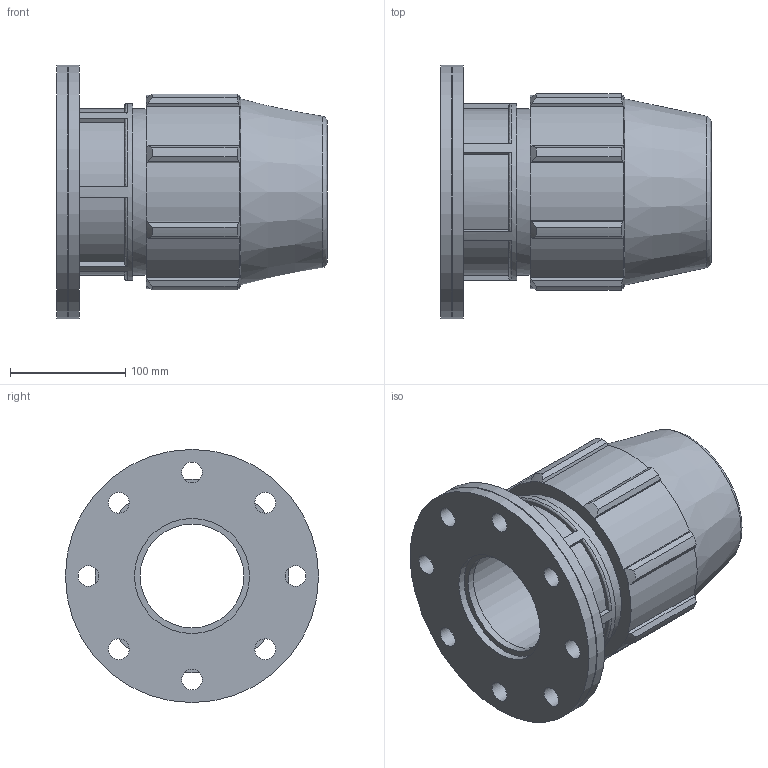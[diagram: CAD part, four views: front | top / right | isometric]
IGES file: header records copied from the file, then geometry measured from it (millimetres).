
Global section: file name: 0722061100400A.ipt; native system: Autodesk Inventor 2015; preprocessor: unknown; author: KIM; date: 20170608.042630; units: millimetre
Bounding box: 235 x 220 x 220 mm (x, y, z)
Volume: 2919810.8 mm3; surface area: 289089.1 mm2
Topology: 1 solids, 1 shells, 121 faces, 342 edges, 230 vertices
Faces by surface type: plane 59, cylinder 26, revolution 23, cone 13
Full cylindrical faces by diameter (mm): 144.8 x1, 153.85 x1, 220 x2
